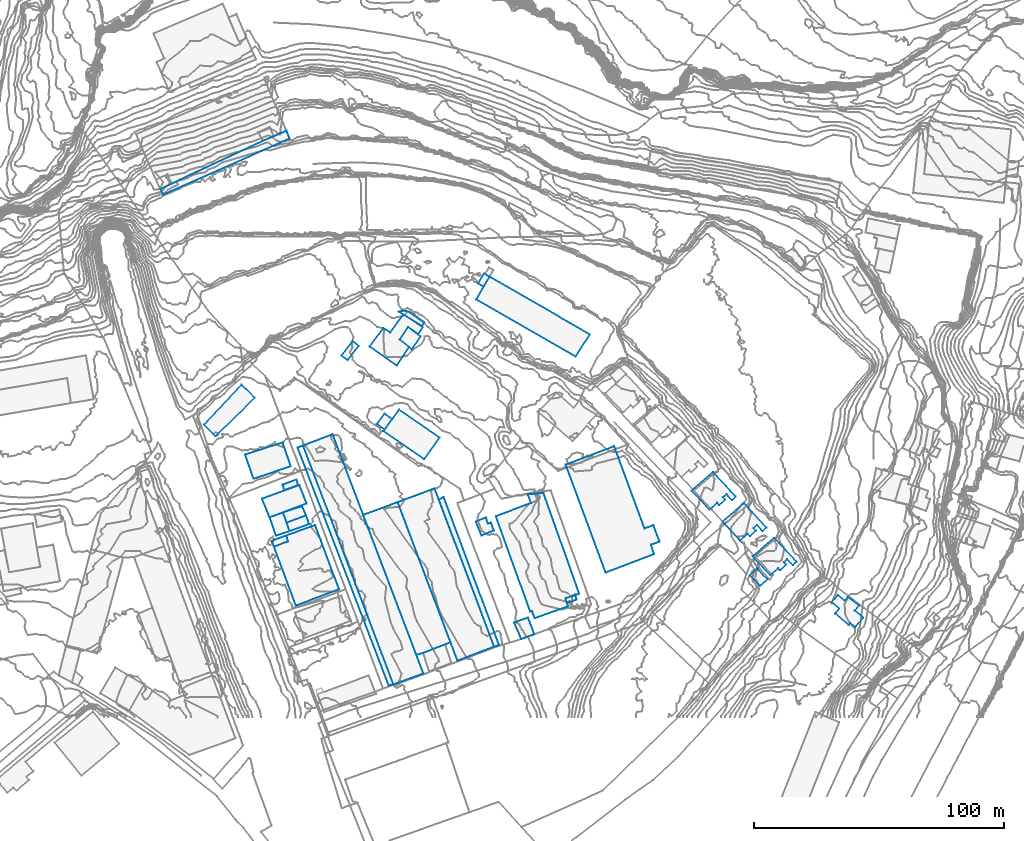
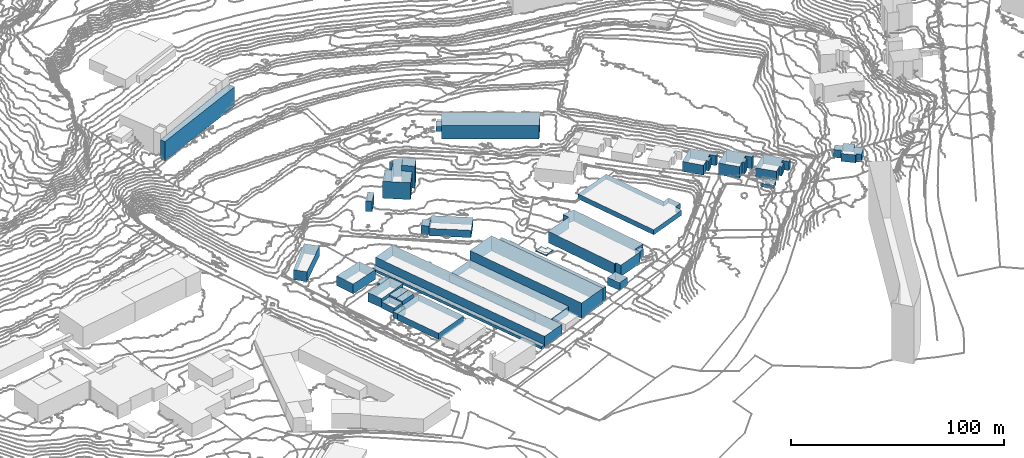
# Not in any storey, part 33 of 419: 33 walls.
"""IFC2X3 model written with IfcOpenShell, lengths in metres."""

from ifc_helpers import new_model, si_unit, frame, origin_with_axes, place, context, subcontext, project, faceted_brep, element, save


model = new_model("IFC2X3")

# Units and contexts
model_context = context("Model", 3, precision=1e-05, world=origin_with_axes())
body_context = subcontext(model_context, "Body", "Model", "MODEL_VIEW")
ifc_project = project(units=[si_unit("AREAUNIT", "SQUARE_METRE"), si_unit("LENGTHUNIT", "METRE")], contexts=[model_context])

# Walls
wall_1_placement = place(None, frame((421.3920204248, 172.2976909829, 35.0897986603), z_axis=(0.0, 0.0, 1.0), x_axis=(1.0, 0.0, 0.0)))
element("IfcWall", 1, at=wall_1_placement, Name="Mur 0", context=body_context, shape_type="Brep", body=[
    faceted_brep([(4.7, 2.6999999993, 2.9102013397), (2.2999999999, -1.3000000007, 2.9102013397), (4.7, 2.6999999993, 0.0), (2.2999999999, -1.3000000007, 0.0), (2.3999999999, 4.0, 2.9102013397), (2.3999999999, 4.0, 0.0), (0.0, 0.0, 2.9102013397), (0.0, 0.0, 0.0)], [[[0, 1, 2]], [[2, 1, 3]], [[4, 0, 5]], [[5, 0, 2]], [[1, 6, 3]], [[3, 6, 7]], [[6, 4, 7]], [[7, 4, 5]]]),
])
wall_2_placement = place(None, frame((344.7920204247, 76.4976909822, 20.0280004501), z_axis=(0.0, 0.0, 1.0), x_axis=(1.0, 0.0, 0.0)))
element("IfcWall", 2, at=wall_2_placement, Name="Mur 0", context=body_context, shape_type="Brep", body=[
    faceted_brep([(9.0, -0.5999999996, 4.4719995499), (1.2000000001, -3.3999999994, 4.4719995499), (9.0, -0.5999999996, 0.0), (1.2000000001, -3.3999999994, 0.0), (7.8, 2.9000000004, 4.4719995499), (7.8, 2.9000000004, 0.0), (0.0, 0.0, 4.4719995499), (0.0, 0.0, 0.0)], [[[0, 1, 2]], [[2, 1, 3]], [[4, 0, 5]], [[5, 0, 2]], [[1, 6, 3]], [[3, 6, 7]], [[6, 4, 7]], [[7, 4, 5]]]),
])
wall_3_placement = place(None, frame((343.1920204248, 91.6976909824, 20.6824001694), z_axis=(0.0, 0.0, 1.0), x_axis=(1.0, 0.0, 0.0)))
element("IfcWall", 3, at=wall_3_placement, Name="Mur 0", context=body_context, shape_type="Brep", body=[
    faceted_brep([(6.1, -0.2000000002, 4.4175998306), (0.6, -2.2000000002, 4.4175998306), (6.1, -0.2000000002, 0.0), (0.6, -2.2000000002, 0.0), (5.6, 2.1000000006, 4.4175998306), (5.6, 2.1000000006, 0.0), (0.0, 0.0, 4.4175998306), (0.0, 0.0, 0.0)], [[[0, 1, 2]], [[2, 1, 3]], [[4, 0, 5]], [[5, 0, 2]], [[1, 6, 3]], [[3, 6, 7]], [[6, 4, 7]], [[7, 4, 5]]]),
])
wall_4_placement = place(None, frame((311.6920204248, 115.7976909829, 23.0439993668), z_axis=(0.0, 0.0, 1.0), x_axis=(1.0, 0.0, 0.0)))
element("IfcWall", 4, at=wall_4_placement, Name="Mur 0", context=body_context, shape_type="Brep", body=[
    faceted_brep([(15.0, 16.0, 5.6560006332), (16.8, 14.1999999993, 5.6560006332), (15.0, 16.0, 0.0), (16.8, 14.1999999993, 0.0), (0.0, 0.0, 5.6560006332), (0.0, 0.0, 0.0), (4.6, -4.6000000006, 5.6560006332), (4.6, -4.6000000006, 0.0), (20.3, 10.6999999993, 5.6560006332), (20.3, 10.6999999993, 0.0)], [[[0, 1, 2]], [[2, 1, 3]], [[4, 0, 5]], [[5, 0, 2]], [[6, 4, 7]], [[7, 4, 5]], [[1, 8, 3]], [[3, 8, 9]], [[8, 6, 9]], [[9, 6, 7]]]),
])
wall_5_placement = place(None, frame((366.6920204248, 143.3976909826, 26.1219998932), z_axis=(0.0, 0.0, 1.0), x_axis=(1.0, 0.0, 0.0)))
element("IfcWall", 5, at=wall_5_placement, Name="Mur 0", context=body_context, shape_type="Brep", body=[
    faceted_brep([(4.5, 5.7999999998, 6.0), (6.9, 3.9000000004, 6.0), (4.5, 5.7999999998, 0.0), (6.9, 3.9000000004, 0.0), (0.0, 0.0, 6.0), (0.0, 0.0, 0.0), (2.5, -1.7999999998, 6.0), (2.5, -1.7999999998, 0.0)], [[[0, 1, 2]], [[2, 1, 3]], [[4, 0, 5]], [[5, 0, 2]], [[1, 6, 3]], [[3, 6, 7]], [[6, 4, 7]], [[7, 4, 5]]]),
])
wall_6_placement = place(None, frame((343.2920204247, 80.5976909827, 20.1700000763), z_axis=(0.0, 0.0, 1.0), x_axis=(1.0, 0.0, 0.0)))
element("IfcWall", 6, at=wall_6_placement, Name="Mur 0", context=body_context, shape_type="Brep", body=[
    faceted_brep([(1.5, -4.1000000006, 4.5299999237), (0.0, 0.0, 4.5299999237), (1.5, -4.1000000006, 0.0), (0.0, 0.0, 0.0), (9.3, -1.2000000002, 4.5299999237), (9.3, -1.2000000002, 0.0), (7.7000000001, 2.5, 4.5299999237), (7.7000000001, 2.5, 0.0)], [[[0, 1, 2]], [[2, 1, 3]], [[4, 0, 5]], [[5, 0, 2]], [[1, 6, 3]], [[3, 6, 7]], [[6, 4, 7]], [[7, 4, 5]]]),
])
wall_7_placement = place(None, frame((380.8920204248, 115.9976909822, 24.6870004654), z_axis=(0.0, 0.0, 1.0), x_axis=(1.0, 0.0, 0.0)))
element("IfcWall", 7, at=wall_7_placement, Name="Mur 0", context=body_context, shape_type="Brep", body=[
    faceted_brep([(6.1, 1.9000000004, 5.0129995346), (3.1, -2.2999999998, 5.0129995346), (6.1, 1.9000000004, 0.0), (3.1, -2.2999999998, 0.0), (3.1, 4.1000000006, 5.0129995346), (3.1, 4.1000000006, 0.0), (0.0, 0.0, 5.0129995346), (0.0, 0.0, 0.0)], [[[0, 1, 2]], [[2, 1, 3]], [[4, 0, 5]], [[5, 0, 2]], [[1, 6, 3]], [[3, 6, 7]], [[6, 4, 7]], [[7, 4, 5]]]),
])
wall_8_placement = place(None, frame((405.7920204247, 85.7976909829, 23.8416001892), z_axis=(0.0, 0.0, 1.0), x_axis=(1.0, 0.0, 0.0)))
element("IfcWall", 8, at=wall_8_placement, Name="Mur 0", context=body_context, shape_type="Brep", body=[
    faceted_brep([(1.9, 0.8999999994, 7.4583998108), (24.1000000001, -58.4000000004, 7.4583998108), (1.9, 0.8999999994, 0.0), (24.1000000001, -58.4000000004, 0.0), (0.0, 0.0, 7.4583998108), (0.0, 0.0, 0.0), (22.1000000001, -59.0, 7.4583998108), (22.1000000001, -59.0, 0.0)], [[[0, 1, 2]], [[2, 1, 3]], [[4, 0, 5]], [[5, 0, 2]], [[1, 6, 3]], [[3, 6, 7]], [[6, 4, 7]], [[7, 4, 5]]]),
])
wall_9_placement = place(None, frame((389.2920204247, 84.6976909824, 22.6495998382), z_axis=(0.0, 0.0, 1.0), x_axis=(1.0, 0.0, 0.0)))
element("IfcWall", 9, at=wall_9_placement, Name="Mur 0", context=body_context, shape_type="Brep", body=[
    faceted_brep([(14.8, 5.5, 8.7504001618), (38.6000000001, -57.8999999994, 8.7504001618), (14.8, 5.5, 0.0), (38.6000000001, -57.8999999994, 0.0), (0.0, 0.0, 8.7504001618), (0.0, 0.0, 0.0), (23.9, -63.5, 8.7504001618), (23.9, -63.5, 0.0)], [[[0, 1, 2]], [[2, 1, 3]], [[4, 0, 5]], [[5, 0, 2]], [[1, 6, 3]], [[3, 6, 7]], [[6, 4, 7]], [[7, 4, 5]]]),
])
wall_10_placement = place(None, frame((456.4920204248, 46.1976909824, 26.6595002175), z_axis=(0.0, 0.0, 1.0), x_axis=(1.0, 0.0, 0.0)))
element("IfcWall", 10, at=wall_10_placement, Name="Mur 0", context=body_context, shape_type="Brep", body=[
    faceted_brep([(4.4, -0.5, 4.2404997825), (0.6, -1.8999999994, 4.2404997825), (4.4, -0.5, 0.0), (0.6, -1.8999999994, 0.0), (3.9, 1.4000000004, 4.2404997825), (3.9, 1.4000000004, 0.0), (0.0, 0.0, 4.2404997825), (0.0, 0.0, 0.0)], [[[0, 1, 2]], [[2, 1, 3]], [[4, 0, 5]], [[5, 0, 2]], [[1, 6, 3]], [[3, 6, 7]], [[6, 4, 7]], [[7, 4, 5]]]),
])
wall_11_placement = place(None, frame((420.6920204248, 165.8976909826, 35.0520011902), z_axis=(0.0, 0.0, 1.0), x_axis=(1.0, 0.0, 0.0)))
element("IfcWall", 11, at=wall_11_placement, Name="Mur 0", context=body_context, shape_type="Brep", body=[
    faceted_brep([(0.0, 0.0, 7.6479988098), (3.0, 5.0999999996, 7.6479988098), (0.0, 0.0, 0.0), (3.0, 5.0999999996, 0.0), (39.8, -22.9000000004, 7.6479988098), (39.8, -22.9000000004, 0.0), (45.5, -14.0, 7.6479988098), (45.5, -14.0, 0.0), (5.4, 9.0999999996, 7.6479988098), (5.4, 9.0999999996, 0.0)], [[[0, 1, 2]], [[2, 1, 3]], [[4, 0, 5]], [[5, 0, 2]], [[6, 4, 7]], [[7, 4, 5]], [[1, 8, 3]], [[3, 8, 9]], [[8, 6, 9]], [[9, 6, 7]]]),
])
wall_12_placement = place(None, frame((337.9920204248, 78.5976909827, 20.0227003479), z_axis=(0.0, 0.0, 1.0), x_axis=(1.0, 0.0, 0.0)))
element("IfcWall", 12, at=wall_12_placement, Name="Mur 0", context=body_context, shape_type="Brep", body=[
    faceted_brep([(5.2999999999, 2.0, 3.5772996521), (8.0, -5.5, 3.5772996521), (5.2999999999, 2.0, 0.0), (8.0, -5.5, 0.0), (0.0, 0.0, 3.5772996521), (0.0, 0.0, 0.0), (2.5, -7.2999999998, 3.5772996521), (2.5, -7.2999999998, 0.0)], [[[0, 1, 2]], [[2, 1, 3]], [[4, 0, 5]], [[5, 0, 2]], [[1, 6, 3]], [[3, 6, 7]], [[6, 4, 7]], [[7, 4, 5]]]),
])
wall_13_placement = place(None, frame((334.8920204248, 86.0976909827, 20.3079998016), z_axis=(0.0, 0.0, 1.0), x_axis=(1.0, 0.0, 0.0)))
element("IfcWall", 13, at=wall_13_placement, Name="Mur 0", context=body_context, shape_type="Brep", body=[
    faceted_brep([(17.8999999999, -1.9000000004, 5.1920001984), (3.1, -7.5, 5.1920001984), (17.8999999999, -1.9000000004, 0.0), (3.1, -7.5, 0.0), (15.0, 5.5, 5.1920001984), (15.0, 5.5, 0.0), (0.0, 0.0, 5.1920001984), (0.0, 0.0, 0.0)], [[[0, 1, 2]], [[2, 1, 3]], [[4, 0, 5]], [[5, 0, 2]], [[1, 6, 3]], [[3, 6, 7]], [[6, 4, 7]], [[7, 4, 5]]]),
])
wall_14_placement = place(None, frame((519.3920204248, 76.9976909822, 33.9335998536), z_axis=(0.0, 0.0, 1.0), x_axis=(1.0, 0.0, 0.0)))
element("IfcWall", 14, at=wall_14_placement, Name="Mur 0", context=body_context, shape_type="Brep", body=[
    faceted_brep([(0.0, 0.0, 6.7664001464), (8.7, 7.3000000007, 6.7664001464), (0.0, 0.0, 0.0), (8.7, 7.3000000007, 0.0), (7.1, -7.6999999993, 6.7664001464), (7.1, -7.6999999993, 0.0), (10.1, -4.8999999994, 6.7664001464), (10.1, -4.8999999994, 0.0), (11.0, -5.7999999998, 6.7664001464), (11.0, -5.7999999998, 0.0), (13.3999999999, -3.5999999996, 6.7664001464), (13.3999999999, -3.5999999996, 0.0), (12.5, -2.5999999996, 6.7664001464), (12.5, -2.5999999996, 0.0), (13.8999999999, -1.3999999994, 6.7664001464), (13.8999999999, -1.3999999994, 0.0), (16.1, -3.7999999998, 6.7664001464), (16.1, -3.7999999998, 0.0), (17.6, -2.3999999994, 6.7664001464), (17.6, -2.3999999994, 0.0)], [[[0, 1, 2]], [[2, 1, 3]], [[4, 0, 5]], [[5, 0, 2]], [[6, 4, 7]], [[7, 4, 5]], [[8, 6, 9]], [[9, 6, 7]], [[10, 8, 11]], [[11, 8, 9]], [[12, 10, 13]], [[13, 10, 11]], [[14, 12, 15]], [[15, 12, 13]], [[16, 14, 17]], [[17, 14, 15]], [[1, 18, 3]], [[3, 18, 19]], [[18, 16, 19]], [[19, 16, 17]]]),
])
wall_15_placement = place(None, frame((530.3920204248, 55.4976909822, 36.1887983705), z_axis=(0.0, 0.0, 1.0), x_axis=(1.0, 0.0, 0.0)))
element("IfcWall", 15, at=wall_15_placement, Name="Mur 0", context=body_context, shape_type="Brep", body=[
    faceted_brep([(2.7999999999, 2.8000000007, 2.0112016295), (7.0, -1.6999999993, 2.0112016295), (2.7999999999, 2.8000000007, 0.0), (7.0, -1.6999999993, 0.0), (0.0, 0.0, 2.0112016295), (0.0, 0.0, 0.0), (4.1, -4.2999999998, 2.0112016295), (4.1, -4.2999999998, 0.0)], [[[0, 1, 2]], [[2, 1, 3]], [[4, 0, 5]], [[5, 0, 2]], [[1, 6, 3]], [[3, 6, 7]], [[6, 4, 7]], [[7, 4, 5]]]),
])
wall_16_placement = place(None, frame((349.1920204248, 106.5976909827, 20.5634006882), z_axis=(0.0, 0.0, 1.0), x_axis=(1.0, 0.0, 0.0)))
element("IfcWall", 16, at=wall_16_placement, Name="Mur 0", context=body_context, shape_type="Brep", body=[
    faceted_brep([(38.4, -94.9000000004, 1.6365993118), (36.5, -95.2999999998, 1.6365993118), (38.4, -94.9000000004, 0.0), (36.5, -95.2999999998, 0.0), (2.2000000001, 0.7999999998, 1.6365993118), (2.2000000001, 0.7999999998, 0.0), (0.0, 0.0, 1.6365993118), (0.0, 0.0, 0.0)], [[[0, 1, 2]], [[2, 1, 3]], [[4, 0, 5]], [[5, 0, 2]], [[1, 6, 3]], [[3, 6, 7]], [[6, 4, 7]], [[7, 4, 5]]]),
])
wall_17_placement = place(None, frame((428.5920204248, 79.0976909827, 25.4969999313), z_axis=(0.0, 0.0, 1.0), x_axis=(1.0, 0.0, 0.0)))
element("IfcWall", 17, at=wall_17_placement, Name="Mur 0", context=body_context, shape_type="Brep", body=[
    faceted_brep([(19.1, 9.2999999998, 6.5030000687), (33.4, -31.1000000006, 6.5030000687), (19.1, 9.2999999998, 0.0), (33.4, -31.1000000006, 0.0), (12.8, 8.7000000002, 6.5030000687), (12.8, 8.7000000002, 0.0), (14.2, 5.2999999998, 6.5030000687), (14.2, 5.2999999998, 0.0), (0.0, 0.0, 6.5030000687), (0.0, 0.0, 0.0), (13.8, -38.2999999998, 6.5030000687), (13.8, -38.2999999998, 0.0), (14.5, -38.0, 6.5030000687), (14.5, -38.0, 0.0), (15.6, -40.9000000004, 6.5030000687), (15.6, -40.9000000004, 0.0), (28.9, -36.1000000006, 6.5030000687), (28.9, -36.1000000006, 0.0), (27.9, -32.9000000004, 6.5030000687), (27.9, -32.9000000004, 0.0)], [[[0, 1, 2]], [[2, 1, 3]], [[4, 0, 5]], [[5, 0, 2]], [[6, 4, 7]], [[7, 4, 5]], [[8, 6, 9]], [[9, 6, 7]], [[10, 8, 11]], [[11, 8, 9]], [[12, 10, 13]], [[13, 10, 11]], [[14, 12, 15]], [[15, 12, 13]], [[16, 14, 17]], [[17, 14, 15]], [[1, 18, 3]], [[3, 18, 19]], [[18, 16, 19]], [[19, 16, 17]]]),
])
wall_18_placement = place(None, frame((338.7920204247, 69.1976909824, 20.0052000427), z_axis=(0.0, 0.0, 1.0), x_axis=(1.0, 0.0, 0.0)))
element("IfcWall", 18, at=wall_18_placement, Name="Mur 0", context=body_context, shape_type="Brep", body=[
    faceted_brep([(6.6000000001, -0.2000000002, 3.3947999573), (0.9, -2.2999999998, 3.3947999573), (6.6000000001, -0.2000000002, 0.0), (0.9, -2.2999999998, 0.0), (5.9, 2.2000000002, 3.3947999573), (5.9, 2.2000000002, 0.0), (0.0, 0.0, 3.3947999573), (0.0, 0.0, 0.0)], [[[0, 1, 2]], [[2, 1, 3]], [[4, 0, 5]], [[5, 0, 2]], [[1, 6, 3]], [[3, 6, 7]], [[6, 4, 7]], [[7, 4, 5]]]),
])
wall_19_placement = place(None, frame((435.9920204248, 36.4976909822, 24.4427996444), z_axis=(0.0, 0.0, 1.0), x_axis=(1.0, 0.0, 0.0)))
element("IfcWall", 19, at=wall_19_placement, Name="Mur 0", context=body_context, shape_type="Brep", body=[
    faceted_brep([(5.5, 2.0, 4.4572003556), (8.0, -4.6999999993, 4.4572003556), (5.5, 2.0, 0.0), (8.0, -4.6999999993, 0.0), (0.0, 0.0, 4.4572003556), (0.0, 0.0, 0.0), (2.7999999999, -6.6999999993, 4.4572003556), (2.7999999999, -6.6999999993, 0.0)], [[[0, 1, 2]], [[2, 1, 3]], [[4, 0, 5]], [[5, 0, 2]], [[1, 6, 3]], [[3, 6, 7]], [[6, 4, 7]], [[7, 4, 5]]]),
])
wall_20_placement = place(None, frame((377.9920204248, 146.9976909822, 27.5247998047), z_axis=(0.0, 0.0, 1.0), x_axis=(1.0, 0.0, 0.0)))
element("IfcWall", 20, at=wall_20_placement, Name="Mur 0", context=body_context, shape_type="Brep", body=[
    faceted_brep([(12.0, 2.9000000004, 9.6752001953), (15.7999999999, -0.1999999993, 9.6752001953), (12.0, 2.9000000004, 0.0), (15.7999999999, -0.1999999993, 0.0), (15.4, 7.8000000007, 9.6752001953), (15.4, 7.8000000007, 0.0), (19.5, 5.0, 9.6752001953), (19.5, 5.0, 0.0), (21.2999999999, 7.8000000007, 9.6752001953), (21.2999999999, 7.8000000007, 0.0), (13.4, 12.9000000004, 9.6752001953), (13.4, 12.9000000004, 0.0), (8.2, 5.7000000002, 9.6752001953), (8.2, 5.7000000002, 0.0), (5.5, 7.5, 9.6752001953), (5.5, 7.5, 0.0), (0.0, 0.0, 9.6752001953), (0.0, 0.0, 0.0), (10.7999999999, -7.5999999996, 9.6752001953), (10.7999999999, -7.5999999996, 0.0)], [[[0, 1, 2]], [[2, 1, 3]], [[4, 0, 5]], [[5, 0, 2]], [[6, 4, 7]], [[7, 4, 5]], [[8, 6, 9]], [[9, 6, 7]], [[10, 8, 11]], [[11, 8, 9]], [[12, 10, 13]], [[13, 10, 11]], [[14, 12, 15]], [[15, 12, 13]], [[16, 14, 17]], [[17, 14, 15]], [[1, 18, 3]], [[3, 18, 19]], [[18, 16, 19]], [[19, 16, 17]]]),
])
wall_21_placement = place(None, frame((456.5920204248, 99.6976909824, 28.288000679), z_axis=(0.0, 0.0, 1.0), x_axis=(1.0, 0.0, 0.0)))
element("IfcWall", 21, at=wall_21_placement, Name="Mur 0", context=body_context, shape_type="Brep", body=[
    faceted_brep([(16.0, -43.2000000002, 2.911999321), (0.0, 0.0, 2.911999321), (16.0, -43.2000000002, 0.0), (0.0, 0.0, 0.0), (35.4, -35.7999999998, 2.911999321), (35.4, -35.7999999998, 0.0), (34.1, -32.0999999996, 2.911999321), (34.1, -32.0999999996, 0.0), (37.6, -30.7999999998, 2.911999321), (37.6, -30.7999999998, 0.0), (35.1, -24.2000000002, 2.911999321), (35.1, -24.2000000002, 0.0), (31.6, -25.5, 2.911999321), (31.6, -25.5, 0.0), (19.4, 7.4000000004, 2.911999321), (19.4, 7.4000000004, 0.0)], [[[0, 1, 2]], [[2, 1, 3]], [[4, 0, 5]], [[5, 0, 2]], [[6, 4, 7]], [[7, 4, 5]], [[8, 6, 9]], [[9, 6, 7]], [[10, 8, 11]], [[11, 8, 9]], [[12, 10, 13]], [[13, 10, 11]], [[1, 14, 3]], [[3, 14, 15]], [[14, 12, 15]], [[15, 12, 13]]]),
])
wall_22_placement = place(None, frame((507.0920204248, 89.3976909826, 32.5799999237), z_axis=(0.0, 0.0, 1.0), x_axis=(1.0, 0.0, 0.0)))
element("IfcWall", 22, at=wall_22_placement, Name="Mur 0", context=body_context, shape_type="Brep", body=[
    faceted_brep([(0.0, 0.0, 5.7200000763), (8.6, 7.4000000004, 5.7200000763), (0.0, 0.0, 0.0), (8.6, 7.4000000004, 0.0), (7.1, -7.7000000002, 5.7200000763), (7.1, -7.7000000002, 0.0), (10.1, -4.9000000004, 5.7200000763), (10.1, -4.9000000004, 0.0), (11.0, -5.9000000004, 5.7200000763), (11.0, -5.9000000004, 0.0), (13.4, -3.7000000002, 5.7200000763), (13.4, -3.7000000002, 0.0), (12.5, -2.7000000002, 5.7200000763), (12.5, -2.7000000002, 0.0), (13.9, -1.5, 5.7200000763), (13.9, -1.5, 0.0), (16.1, -3.9000000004, 5.7200000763), (16.1, -3.9000000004, 0.0), (17.6, -2.5, 5.7200000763), (17.6, -2.5, 0.0)], [[[0, 1, 2]], [[2, 1, 3]], [[4, 0, 5]], [[5, 0, 2]], [[6, 4, 7]], [[7, 4, 5]], [[8, 6, 9]], [[9, 6, 7]], [[10, 8, 11]], [[11, 8, 9]], [[12, 10, 13]], [[13, 10, 11]], [[14, 12, 15]], [[15, 12, 13]], [[16, 14, 17]], [[17, 14, 15]], [[1, 18, 3]], [[3, 18, 19]], [[18, 16, 19]], [[19, 16, 17]]]),
])
wall_23_placement = place(None, frame((531.3920204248, 62.9976909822, 36.9735998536), z_axis=(0.0, 0.0, 1.0), x_axis=(1.0, 0.0, 0.0)))
element("IfcWall", 23, at=wall_23_placement, Name="Mur 0", context=body_context, shape_type="Brep", body=[
    faceted_brep([(0.0, 0.0, 5.2264001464), (8.7, 7.4000000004, 5.2264001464), (0.0, 0.0, 0.0), (8.7, 7.4000000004, 0.0), (7.2, -7.5, 5.2264001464), (7.2, -7.5, 0.0), (10.2, -4.6999999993, 5.2264001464), (10.2, -4.6999999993, 0.0), (11.1, -5.5999999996, 5.2264001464), (11.1, -5.5999999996, 0.0), (13.5, -3.2999999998, 5.2264001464), (13.5, -3.2999999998, 0.0), (12.6, -2.3999999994, 5.2264001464), (12.6, -2.3999999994, 0.0), (13.8999999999, -1.0999999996, 5.2264001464), (13.8999999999, -1.0999999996, 0.0), (16.2, -3.5, 5.2264001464), (16.2, -3.5, 0.0), (17.7, -2.0999999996, 5.2264001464), (17.7, -2.0999999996, 0.0)], [[[0, 1, 2]], [[2, 1, 3]], [[4, 0, 5]], [[5, 0, 2]], [[6, 4, 7]], [[7, 4, 5]], [[8, 6, 9]], [[9, 6, 7]], [[10, 8, 11]], [[11, 8, 9]], [[12, 10, 13]], [[13, 10, 11]], [[14, 12, 15]], [[15, 12, 13]], [[16, 14, 17]], [[17, 14, 15]], [[1, 18, 3]], [[3, 18, 19]], [[18, 16, 19]], [[19, 16, 17]]]),
])
wall_24_placement = place(None, frame((383.4920204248, 113.1976909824, 24.6164005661), z_axis=(0.0, 0.0, 1.0), x_axis=(1.0, 0.0, 0.0)))
element("IfcWall", 24, at=wall_24_placement, Name="Mur 0", context=body_context, shape_type="Brep", body=[
    faceted_brep([(0.0, 0.0, 4.1835994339), (0.5, 0.5, 4.1835994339), (0.0, 0.0, 0.0), (0.5, 0.5, 0.0), (16.4, -11.2999999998, 4.1835994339), (16.4, -11.2999999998, 0.0), (22.5, -2.7000000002, 4.1835994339), (22.5, -2.7000000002, 0.0), (6.2999999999, 8.5, 4.1835994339), (6.2999999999, 8.5, 0.0)], [[[0, 1, 2]], [[2, 1, 3]], [[4, 0, 5]], [[5, 0, 2]], [[6, 4, 7]], [[7, 4, 5]], [[1, 8, 3]], [[3, 8, 9]], [[8, 6, 9]], [[9, 6, 7]]]),
])
wall_25_placement = place(None, frame((389.9920204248, 149.8976909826, 27.9512001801), z_axis=(0.0, 0.0, 1.0), x_axis=(1.0, 0.0, 0.0)))
element("IfcWall", 25, at=wall_25_placement, Name="Mur 0", context=body_context, shape_type="Brep", body=[
    faceted_brep([(4.7999999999, -4.0999999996, 12.5487998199), (3.7999999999, -3.0999999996, 12.5487998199), (4.7999999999, -4.0999999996, 0.0), (3.7999999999, -3.0999999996, 0.0), (8.4, 1.0999999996, 12.5487998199), (8.4, 1.0999999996, 0.0), (3.4, 4.9000000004, 12.5487998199), (3.4, 4.9000000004, 0.0), (0.0, 0.0, 12.5487998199), (0.0, 0.0, 0.0)], [[[0, 1, 2]], [[2, 1, 3]], [[4, 0, 5]], [[5, 0, 2]], [[6, 4, 7]], [[7, 4, 5]], [[1, 8, 3]], [[3, 8, 9]], [[8, 6, 9]], [[9, 6, 7]]]),
])
wall_26_placement = place(None, frame((389.6920204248, 160.9976909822, 28.4696003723), z_axis=(0.0, 0.0, 1.0), x_axis=(1.0, 0.0, 0.0)))
element("IfcWall", 26, at=wall_26_placement, Name="Mur 0", context=body_context, shape_type="Brep", body=[
    faceted_brep([(10.2000000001, -4.3999999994, 6.7303996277), (9.3, -5.7999999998, 6.7303996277), (10.2000000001, -4.3999999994, 0.0), (9.3, -5.7999999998, 0.0), (3.5, 0.1000000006, 6.7303996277), (3.5, 0.1000000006, 0.0), (1.9, 0.4000000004, 6.7303996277), (1.9, 0.4000000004, 0.0), (0.0, 0.0, 6.7303996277), (0.0, 0.0, 0.0)], [[[0, 1, 2]], [[2, 1, 3]], [[4, 0, 5]], [[5, 0, 2]], [[6, 4, 7]], [[7, 4, 5]], [[1, 8, 3]], [[3, 8, 9]], [[8, 6, 9]], [[9, 6, 7]]]),
])
wall_27_placement = place(None, frame((294.1920204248, 210.1976909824, 40.9370006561), z_axis=(0.0, 0.0, 1.0), x_axis=(1.0, 0.0, 0.0)))
element("IfcWall", 27, at=wall_27_placement, Name="Mur 0", context=body_context, shape_type="Brep", body=[
    faceted_brep([(1.1, -2.2999999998, 11.0629993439), (0.0, 0.0, 11.0629993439), (1.1, -2.2999999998, 0.0), (0.0, 0.0, 0.0), (51.8, 20.2000000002, 11.0629993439), (51.8, 20.2000000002, 0.0), (50.5, 23.2999999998, 11.0629993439), (50.5, 23.2999999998, 0.0), (41.1, 19.2999999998, 11.0629993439), (41.1, 19.2999999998, 0.0)], [[[0, 1, 2]], [[2, 1, 3]], [[4, 0, 5]], [[5, 0, 2]], [[6, 4, 7]], [[7, 4, 5]], [[1, 8, 3]], [[3, 8, 9]], [[8, 6, 9]], [[9, 6, 7]]]),
])
wall_28_placement = place(None, frame((351.3920204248, 107.3976909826, 20.9520000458), z_axis=(0.0, 0.0, 1.0), x_axis=(1.0, 0.0, 0.0)))
element("IfcWall", 28, at=wall_28_placement, Name="Mur 0", context=body_context, shape_type="Brep", body=[
    faceted_brep([(48.2, -91.2999999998, 6.1479999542), (36.2, -95.7000000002, 6.1479999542), (48.2, -91.2999999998, 0.0), (36.2, -95.7000000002, 0.0), (11.7999999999, 4.5, 6.1479999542), (11.7999999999, 4.5, 0.0), (0.0, 0.0, 6.1479999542), (0.0, 0.0, 0.0)], [[[0, 1, 2]], [[2, 1, 3]], [[4, 0, 5]], [[5, 0, 2]], [[1, 6, 3]], [[3, 6, 7]], [[6, 4, 7]], [[7, 4, 5]]]),
])
wall_29_placement = place(None, frame((339.6920204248, 66.8976909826, 19.655200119), z_axis=(0.0, 0.0, 1.0), x_axis=(1.0, 0.0, 0.0)))
element("IfcWall", 29, at=wall_29_placement, Name="Mur 0", context=body_context, shape_type="Brep", body=[
    faceted_brep([(8.8, -23.5999999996, 3.744799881), (0.0, 0.0, 3.744799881), (8.8, -23.5999999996, 0.0), (0.0, 0.0, 0.0), (26.1, -17.0999999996, 3.744799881), (26.1, -17.0999999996, 0.0), (16.5, 8.5999999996, 3.744799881), (16.5, 8.5999999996, 0.0), (5.0, 4.5, 3.744799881), (5.0, 4.5, 0.0), (5.7000000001, 2.0999999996, 3.744799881), (5.7000000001, 2.0999999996, 0.0)], [[[0, 1, 2]], [[2, 1, 3]], [[4, 0, 5]], [[5, 0, 2]], [[6, 4, 7]], [[7, 4, 5]], [[8, 6, 9]], [[9, 6, 7]], [[1, 10, 3]], [[3, 10, 11]], [[10, 8, 11]], [[11, 8, 9]]]),
])
wall_30_placement = place(None, frame((420.5920204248, 76.9976909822, 24.4879997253), z_axis=(0.0, 0.0, 1.0), x_axis=(1.0, 0.0, 0.0)))
element("IfcWall", 30, at=wall_30_placement, Name="Mur 0", context=body_context, shape_type="Brep", body=[
    faceted_brep([(7.2, -3.5999999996, 0.7120002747), (2.3, -5.5999999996, 0.7120002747), (7.2, -3.5999999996, 0.0), (2.3, -5.5999999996, 0.0), (6.1, -0.5, 0.7120002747), (6.1, -0.5, 0.0), (4.8, -0.8999999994, 0.7120002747), (4.8, -0.8999999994, 0.0), (4.0, 1.6000000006, 0.7120002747), (4.0, 1.6000000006, 0.0), (0.0, 0.0, 0.7120002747), (0.0, 0.0, 0.0)], [[[0, 1, 2]], [[2, 1, 3]], [[4, 0, 5]], [[5, 0, 2]], [[6, 4, 7]], [[7, 4, 5]], [[8, 6, 9]], [[9, 6, 7]], [[1, 10, 3]], [[3, 10, 11]], [[10, 8, 11]], [[11, 8, 9]]]),
])
wall_31_placement = place(None, frame((328.1920204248, 103.7976909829, 21.125000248), z_axis=(0.0, 0.0, 1.0), x_axis=(1.0, 0.0, 0.0)))
element("IfcWall", 31, at=wall_31_placement, Name="Mur 0", context=body_context, shape_type="Brep", body=[
    faceted_brep([(0.0, 0.0, 5.574999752), (15.0, 4.7999999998, 5.574999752), (0.0, 0.0, 0.0), (15.0, 4.7999999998, 0.0), (3.3, -9.7000000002, 5.574999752), (3.3, -9.7000000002, 0.0), (18.2000000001, -4.7000000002, 5.574999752), (18.2000000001, -4.7000000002, 0.0)], [[[0, 1, 2]], [[2, 1, 3]], [[4, 0, 5]], [[5, 0, 2]], [[1, 6, 3]], [[3, 6, 7]], [[6, 4, 7]], [[7, 4, 5]]]),
])
wall_32_placement = place(None, frame((375.3920204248, 79.5976909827, 21.4464002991), z_axis=(0.0, 0.0, 1.0), x_axis=(1.0, 0.0, 0.0)))
element("IfcWall", 32, at=wall_32_placement, Name="Mur 0", context=body_context, shape_type="Brep", body=[
    faceted_brep([(35.0, -51.0, 4.5535997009), (24.1, -55.2999999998, 4.5535997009), (35.0, -51.0, 0.0), (24.1, -55.2999999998, 0.0), (13.8999999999, 5.0999999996, 4.5535997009), (13.8999999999, 5.0999999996, 0.0), (0.0, 0.0, 4.5535997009), (0.0, 0.0, 0.0), (21.3999999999, -56.1000000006, 4.5535997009), (21.3999999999, -56.1000000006, 0.0)], [[[0, 1, 2]], [[2, 1, 3]], [[4, 0, 5]], [[5, 0, 2]], [[6, 4, 7]], [[7, 4, 5]], [[1, 8, 3]], [[3, 8, 9]], [[8, 6, 9]], [[9, 6, 7]]]),
])
wall_33_placement = place(None, frame((563.0920204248, 44.5976909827, 48.1989997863), z_axis=(0.0, 0.0, 1.0), x_axis=(1.0, 0.0, 0.0)))
element("IfcWall", 33, at=wall_33_placement, Name="Mur 0", context=body_context, shape_type="Brep", body=[
    faceted_brep([(6.5, 2.0999999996, 4.5010002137), (11.0, -1.2999999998, 4.5010002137), (6.5, 2.0999999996, 0.0), (11.0, -1.2999999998, 0.0), (5.3, 0.5999999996, 4.5010002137), (5.3, 0.5999999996, 0.0), (2.5, 2.8999999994, 4.5010002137), (2.5, 2.8999999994, 0.0), (0.0, 0.0, 4.5010002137), (0.0, 0.0, 0.0), (3.0, -2.5, 4.5010002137), (3.0, -2.5, 0.0), (1.4, -4.5, 4.5010002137), (1.4, -4.5, 0.0), (6.8, -9.1000000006, 4.5010002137), (6.8, -9.1000000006, 0.0), (7.4, -8.4000000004, 4.5010002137), (7.4, -8.4000000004, 0.0), (9.4, -10.0, 4.5010002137), (9.4, -10.0, 0.0), (12.7, -6.1000000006, 4.5010002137), (12.7, -6.1000000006, 0.0), (9.3, -3.2999999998, 4.5010002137), (9.3, -3.2999999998, 0.0)], [[[0, 1, 2]], [[2, 1, 3]], [[4, 0, 5]], [[5, 0, 2]], [[6, 4, 7]], [[7, 4, 5]], [[8, 6, 9]], [[9, 6, 7]], [[10, 8, 11]], [[11, 8, 9]], [[12, 10, 13]], [[13, 10, 11]], [[14, 12, 15]], [[15, 12, 13]], [[16, 14, 17]], [[17, 14, 15]], [[18, 16, 19]], [[19, 16, 17]], [[20, 18, 21]], [[21, 18, 19]], [[1, 22, 3]], [[3, 22, 23]], [[22, 20, 23]], [[23, 20, 21]]]),
])

save(model, "model.ifc")
